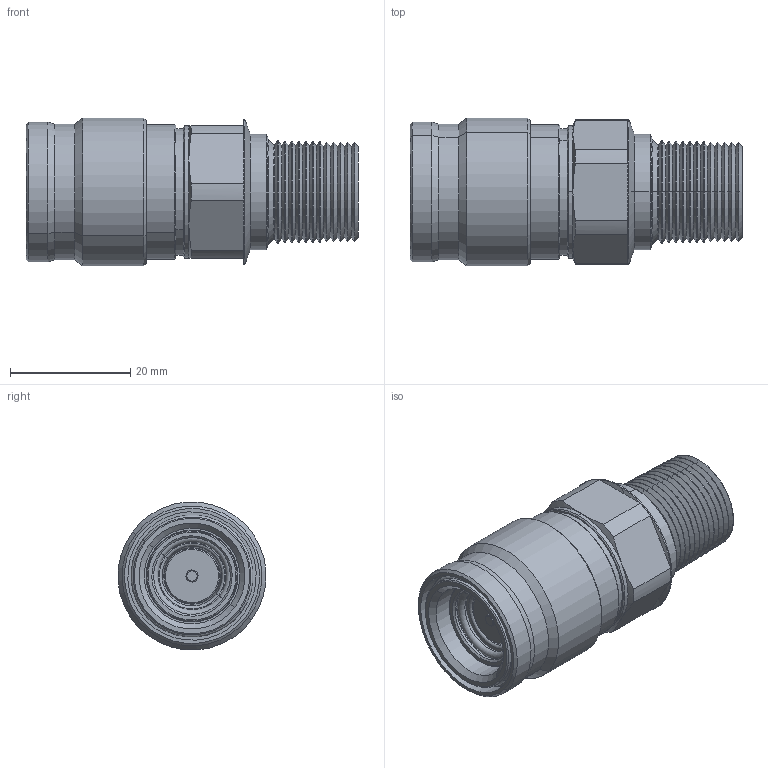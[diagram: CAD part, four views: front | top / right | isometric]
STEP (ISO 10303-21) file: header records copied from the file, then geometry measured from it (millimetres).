
FILE_DESCRIPTION (( 'STEP AP203' ), '1' );
FILE_NAME ('QDT3-FN38.STEP', '2026-08-28T03:51:51', ( 'aksong' ), ( '' ), 'SwSTEP 2.0', 'SolidWorks 2012', '' );
FILE_SCHEMA (( 'CONFIG_CONTROL_DESIGN' ));
Length unit declared in the file: millimetre
Products named in the file (3): Female_body; Female_NPT 3_8 檣憮お 蝶觼盟; QDT3-FN38
Assembly tree (2 placements, depth 2):
  QDT3-FN38
    Female_NPT 3_8 檣憮お 蝶觼盟
    Female_body
Bounding box: 55.21 x 24.61 x 24.61 mm (x, y, z)
Volume: 17804.8 mm3; surface area: 7693.5 mm2
Topology: 2 solids, 2 shells, 227 faces, 460 edges, 252 vertices
Faces by surface type: cone 142, cylinder 44, plane 25, torus 16
Entity records: 6159 total; most frequent: DIRECTION 1168, CARTESIAN_POINT 984, ORIENTED_EDGE 920, AXIS2_PLACEMENT_3D 488, EDGE_CURVE 460, CIRCLE 256, VERTEX_POINT 252, EDGE_LOOP 242
